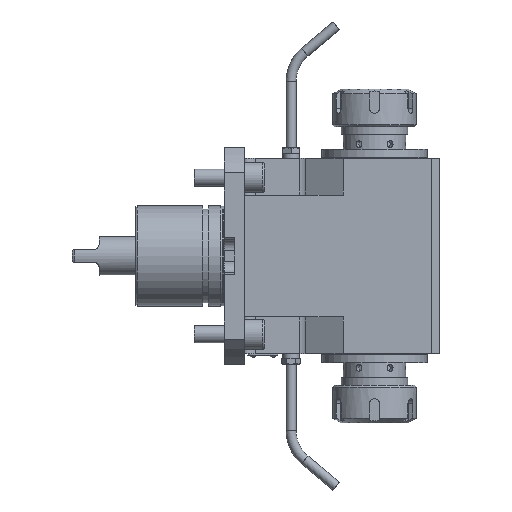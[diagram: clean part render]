
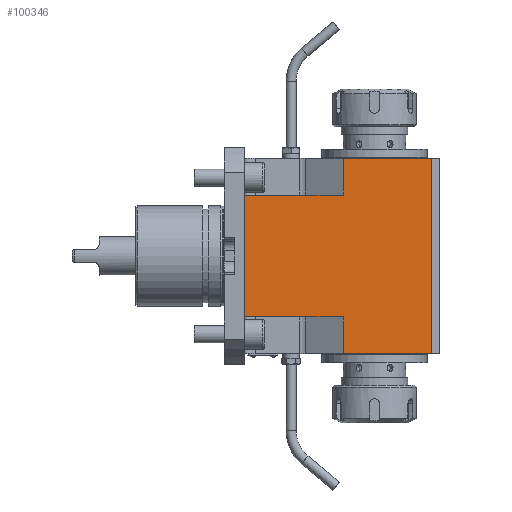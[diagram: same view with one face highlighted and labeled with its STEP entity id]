
A CAD part, front view. The second image highlights one B-rep face of the part: STEP entity #100346.
In plain terms, the highlighted planar face has unit normal (0, -1, 0).
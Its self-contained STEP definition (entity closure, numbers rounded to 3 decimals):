
#41725=VECTOR('',#66113,1.);
#41730=VECTOR('',#66124,1.);
#41743=VECTOR('',#66159,1.);
#41744=VECTOR('',#66160,1.);
#41745=VECTOR('',#66161,1.);
#41746=VECTOR('',#66162,1.);
#41747=VECTOR('',#66163,1.);
#41748=VECTOR('',#66164,1.);
#43400=LINE('',#71050,#41725);
#43405=LINE('',#71063,#41730);
#43418=LINE('',#71108,#41743);
#43419=LINE('',#71110,#41744);
#43420=LINE('',#71112,#41745);
#43421=LINE('',#71114,#41746);
#43422=LINE('',#71115,#41747);
#43423=LINE('',#71116,#41748);
#47193=ORIENTED_EDGE('',*,*,#58316,.T.);
#47194=ORIENTED_EDGE('',*,*,#58345,.F.);
#47195=ORIENTED_EDGE('',*,*,#58346,.F.);
#47196=ORIENTED_EDGE('',*,*,#58347,.T.);
#47197=ORIENTED_EDGE('',*,*,#58348,.F.);
#47198=ORIENTED_EDGE('',*,*,#58349,.F.);
#47199=ORIENTED_EDGE('',*,*,#58322,.T.);
#47200=ORIENTED_EDGE('',*,*,#58350,.F.);
#55543=VERTEX_POINT('',#71047);
#55544=VERTEX_POINT('',#71049);
#55548=VERTEX_POINT('',#71061);
#55549=VERTEX_POINT('',#71062);
#55570=VERTEX_POINT('',#71107);
#55571=VERTEX_POINT('',#71109);
#55572=VERTEX_POINT('',#71111);
#55573=VERTEX_POINT('',#71113);
#58316=EDGE_CURVE('',#55544,#55543,#43400,.T.);
#58322=EDGE_CURVE('',#55548,#55549,#43405,.T.);
#58345=EDGE_CURVE('',#55570,#55543,#43418,.T.);
#58346=EDGE_CURVE('',#55571,#55570,#43419,.T.);
#58347=EDGE_CURVE('',#55571,#55572,#43420,.T.);
#58348=EDGE_CURVE('',#55573,#55572,#43421,.T.);
#58349=EDGE_CURVE('',#55548,#55573,#43422,.T.);
#58350=EDGE_CURVE('',#55544,#55549,#43423,.T.);
#62338=EDGE_LOOP('',(#47193,#47194,#47195,#47196,#47197,#47198,#47199,#47200));
#64184=FACE_BOUND('',#62338,.T.);
#66113=DIRECTION('',(-52.751,0.,0.));
#66124=DIRECTION('',(52.751,0.,0.));
#66157=DIRECTION('',(0.,-1.,0.));
#66158=DIRECTION('',(-1.,0.,0.));
#66159=DIRECTION('',(0.,0.,22.));
#66160=DIRECTION('',(59.249,0.,0.));
#66161=DIRECTION('',(0.,0.,-73.));
#66162=DIRECTION('',(-59.249,0.,0.));
#66163=DIRECTION('',(0.,0.,22.));
#66164=DIRECTION('',(0.,0.,-117.));
#71047=CARTESIAN_POINT('',(71.249,-39.,58.5));
#71049=CARTESIAN_POINT('',(124.,-39.,58.5));
#71050=CARTESIAN_POINT('',(124.,-39.,58.5));
#71061=CARTESIAN_POINT('',(71.249,-39.,-58.5));
#71062=CARTESIAN_POINT('',(124.,-39.,-58.5));
#71063=CARTESIAN_POINT('',(71.249,-39.,-58.5));
#71106=CARTESIAN_POINT('',(71.249,-39.,-58.5));
#71107=CARTESIAN_POINT('',(71.249,-39.,36.5));
#71108=CARTESIAN_POINT('',(71.249,-39.,36.5));
#71109=CARTESIAN_POINT('',(12.,-39.,36.5));
#71110=CARTESIAN_POINT('',(12.,-39.,36.5));
#71111=CARTESIAN_POINT('',(12.,-39.,-36.5));
#71112=CARTESIAN_POINT('',(12.,-39.,36.5));
#71113=CARTESIAN_POINT('',(71.249,-39.,-36.5));
#71114=CARTESIAN_POINT('',(71.249,-39.,-36.5));
#71115=CARTESIAN_POINT('',(71.249,-39.,-58.5));
#71116=CARTESIAN_POINT('',(124.,-39.,58.5));
#98148=AXIS2_PLACEMENT_3D('',#71106,#66157,#66158);
#99529=PLANE('',#98148);
#100346=ADVANCED_FACE('',(#64184),#99529,.T.);
